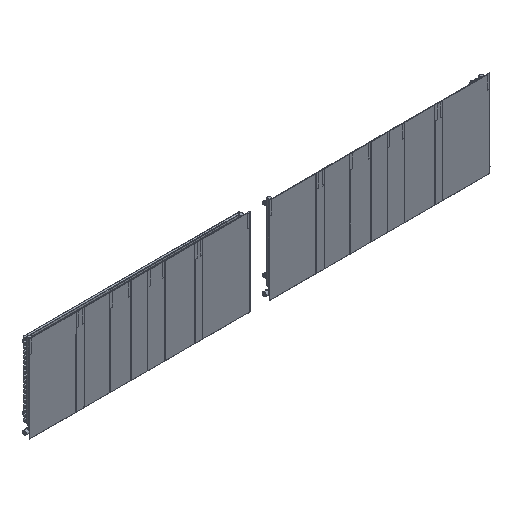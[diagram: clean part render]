
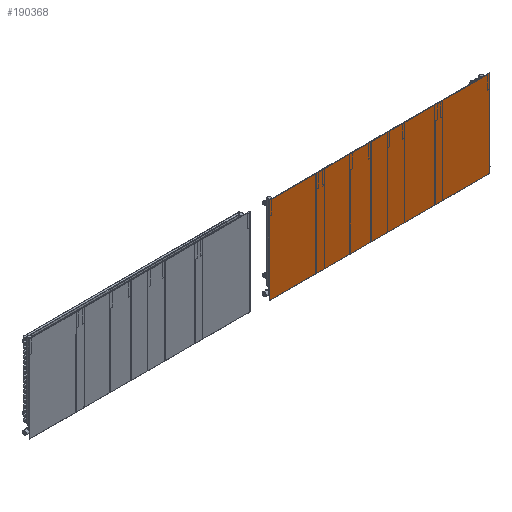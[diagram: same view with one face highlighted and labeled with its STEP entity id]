
A CAD part, isometric view. The second image highlights one B-rep face of the part: STEP entity #190368.
In plain terms, the highlighted free-form (B-spline) face has degree [1, 1] with [2, 2] control points.
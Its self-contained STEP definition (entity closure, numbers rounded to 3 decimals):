
#190333 = CARTESIAN_POINT ('', (1995.547, -122.373, 419.472));
#190334 = VERTEX_POINT ('', #190333);
#190335 = CARTESIAN_POINT ('', (3831.556, -122.373, 419.472));
#190336 = VERTEX_POINT ('', #190335);
#190337 = CARTESIAN_POINT ('', (1995.547, -122.373, 419.472));
#190338 = CARTESIAN_POINT ('', (3831.556, -122.373, 419.472));
#190339 = B_SPLINE_CURVE_WITH_KNOTS ('', 1, (#190337, #190338), .UNSPECIFIED., .F., .U., (2, 2), (0., 1.), .UNSPECIFIED.);
#190340 = EDGE_CURVE ('', #190334, #190336, #190339, .T.);
#190341 = ORIENTED_EDGE ('', *, *, #190340, .T.);
#190342 = CARTESIAN_POINT ('', (3831.556, -122.373, 1142.421));
#190343 = VERTEX_POINT ('', #190342);
#190344 = CARTESIAN_POINT ('', (3831.556, -122.373, 419.472));
#190345 = CARTESIAN_POINT ('', (3831.556, -122.373, 1142.421));
#190346 = B_SPLINE_CURVE_WITH_KNOTS ('', 1, (#190344, #190345), .UNSPECIFIED., .F., .U., (2, 2), (0., 1.), .UNSPECIFIED.);
#190347 = EDGE_CURVE ('', #190336, #190343, #190346, .T.);
#190348 = ORIENTED_EDGE ('', *, *, #190347, .T.);
#190349 = CARTESIAN_POINT ('', (1995.547, -122.373, 1142.421));
#190350 = VERTEX_POINT ('', #190349);
#190351 = CARTESIAN_POINT ('', (3831.556, -122.373, 1142.421));
#190352 = CARTESIAN_POINT ('', (1995.547, -122.373, 1142.421));
#190353 = B_SPLINE_CURVE_WITH_KNOTS ('', 1, (#190351, #190352), .UNSPECIFIED., .F., .U., (2, 2), (0., 1.), .UNSPECIFIED.);
#190354 = EDGE_CURVE ('', #190343, #190350, #190353, .T.);
#190355 = ORIENTED_EDGE ('', *, *, #190354, .T.);
#190356 = CARTESIAN_POINT ('', (1995.547, -122.373, 1142.421));
#190357 = CARTESIAN_POINT ('', (1995.547, -122.373, 419.472));
#190358 = B_SPLINE_CURVE_WITH_KNOTS ('', 1, (#190356, #190357), .UNSPECIFIED., .F., .U., (2, 2), (0., 1.), .UNSPECIFIED.);
#190359 = EDGE_CURVE ('', #190350, #190334, #190358, .T.);
#190360 = ORIENTED_EDGE ('', *, *, #190359, .T.);
#190361 = EDGE_LOOP ('', (#190341, #190348, #190355, #190360));
#190362 = FACE_OUTER_BOUND ('', #190361, .T.);
#190363 = CARTESIAN_POINT ('', (1995.547, -122.373, 1142.421));
#190364 = CARTESIAN_POINT ('', (3831.556, -122.373, 1142.421));
#190365 = CARTESIAN_POINT ('', (1995.547, -122.373, 419.472));
#190366 = CARTESIAN_POINT ('', (3831.556, -122.373, 419.472));
#190367 = B_SPLINE_SURFACE_WITH_KNOTS ('', 1, 1, ((#190363, #190364), (#190365, #190366)), .UNSPECIFIED., .F., .F., .U., (2, 2), (2, 2), (0., 1.), (0., 1.), .UNSPECIFIED.);
#190368 = ADVANCED_FACE ('', (#190362), #190367, .T.);
